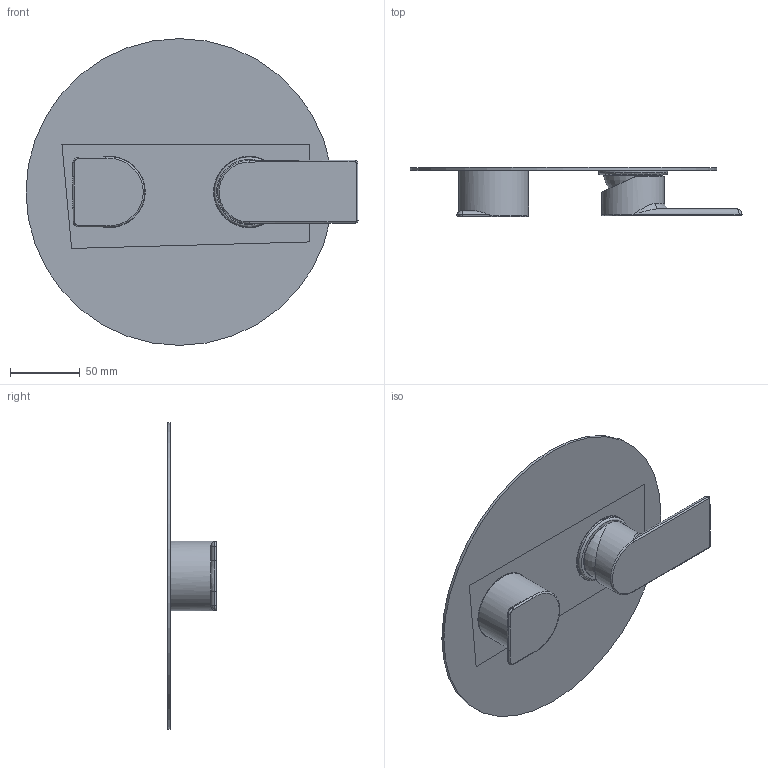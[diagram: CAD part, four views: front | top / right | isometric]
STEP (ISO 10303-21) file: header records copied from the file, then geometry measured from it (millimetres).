
FILE_DESCRIPTION (( 'STEP AP203' ), '1' );
FILE_NAME ('802261 x architetti.STEP', '2023-07-04T06:42:25', ( '' ), ( '' ), 'SwSTEP 2.0', 'SolidWorks 2020', '' );
FILE_SCHEMA (( 'CONFIG_CONTROL_DESIGN' ));
Length unit declared in the file: millimetre
Products named in the file (1): 802261 x architetti
Bounding box: 238.06 x 35 x 220 mm (x, y, z)
Volume: 214352.3 mm3; surface area: 119562.4 mm2
Topology: 2 solids, 4 shells, 80 faces, 183 edges, 115 vertices
Faces by surface type: plane 33, cylinder 24, bspline 14, torus 6, cone 3
Full cylindrical faces by diameter (mm): 41 x1, 42 x1, 42.4 x1, 45 x1, 49.8 x1, 50 x1, 51 x2, 220 x1
Entity records: 3306 total; most frequent: CARTESIAN_POINT 1643, ORIENTED_EDGE 318, DIRECTION 308, EDGE_CURVE 159, AXIS2_PLACEMENT_3D 123, VERTEX_POINT 106, EDGE_LOOP 103, FACE_OUTER_BOUND 91
